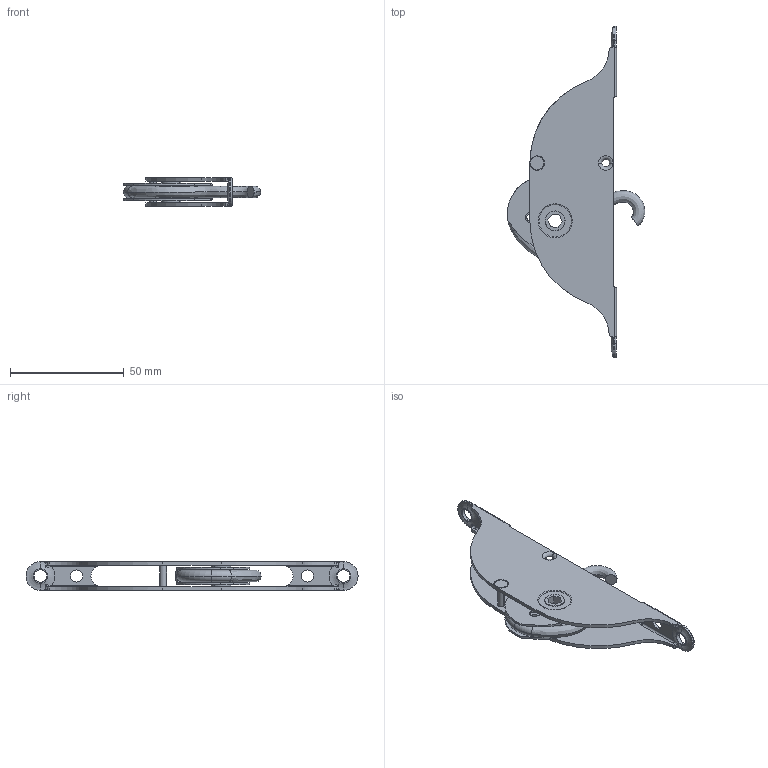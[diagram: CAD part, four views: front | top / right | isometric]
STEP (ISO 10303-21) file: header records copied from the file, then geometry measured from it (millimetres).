
FILE_DESCRIPTION (( 'STEP AP203' ), '1' );
FILE_NAME ('TDS 87-2A1.STEP', '2014-04-05T23:20:55', ( 'Owner' ), ( '' ), 'SwSTEP 2.0', 'SolidWorks 2011', '' );
FILE_SCHEMA (( 'CONFIG_CONTROL_DESIGN' ));
Length unit declared in the file: inch
Products named in the file (8): SPRING PLATE TDS 36-4A; S HOOK ASSY TDS 77-2A_TDS 36-4A; TDS 87-2A1; S1250-2-1.062; SMALL RIVET_.375 LG; S-HOOK TDS 77-2A; TYPE 1 - LARGE ACTUATOR; T1 T2 T3 LARGE HEX KEY
Assembly tree (7 placements, depth 3):
  TDS 87-2A1
    SMALL RIVET_.375 LG
    S HOOK ASSY TDS 77-2A_TDS 36-4A
      SPRING PLATE TDS 36-4A
      S-HOOK TDS 77-2A
      TYPE 1 - LARGE ACTUATOR
      T1 T2 T3 LARGE HEX KEY
    S1250-2-1.062
Bounding box: 60.5 x 146.05 x 12.7 mm (x, y, z)
Volume: 16265.6 mm3; surface area: 22541.5 mm2
Topology: 6 solids, 6 shells, 216 faces, 560 edges, 350 vertices
Faces by surface type: plane 91, cylinder 77, torus 26, bspline 20, cone 2
Entity records: 8542 total; most frequent: CARTESIAN_POINT 2369, DIRECTION 1128, ORIENTED_EDGE 1112, EDGE_CURVE 556, AXIS2_PLACEMENT_3D 433, VERTEX_POINT 350, VECTOR 262, LINE 262
